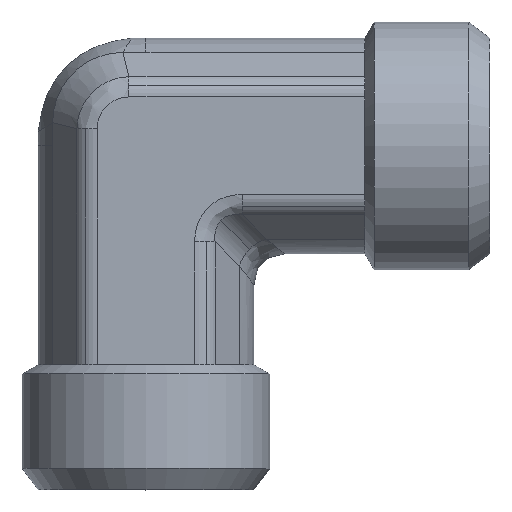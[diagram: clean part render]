
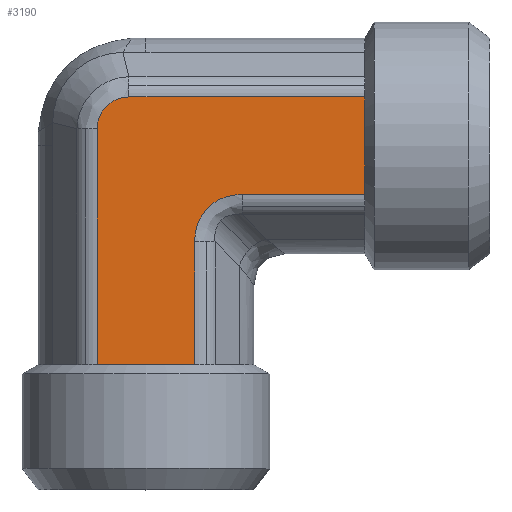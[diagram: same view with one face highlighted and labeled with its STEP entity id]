
A CAD part, top view. The second image highlights one B-rep face of the part: STEP entity #3190.
In plain terms, the highlighted planar face has unit normal (0, 0, 1) as drawn and (0, -1, 0) by its records, which use the part's own axes.
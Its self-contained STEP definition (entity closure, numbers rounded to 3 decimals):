
#361=CARTESIAN_POINT('',(1.649,-6.9,3.118));
#362=VERTEX_POINT('',#361);
#370=CARTESIAN_POINT('',(9.5,-6.9,3.118));
#371=VERTEX_POINT('',#370);
#372=CARTESIAN_POINT('',(1.649,-6.9,3.118));
#373=DIRECTION('',(1.0,0.0,0.0));
#374=VECTOR('',#373,7.851);
#375=LINE('',#372,#374);
#376=EDGE_CURVE('',#362,#371,#375,.T.);
#485=CARTESIAN_POINT('',(-7.618,-6.9,-1.091));
#486=VERTEX_POINT('',#485);
#494=CARTESIAN_POINT('',(-7.618,-6.9,14.0));
#495=VERTEX_POINT('',#494);
#496=CARTESIAN_POINT('',(-7.618,-6.9,-1.091));
#497=DIRECTION('',(0.0,0.0,1.0));
#498=VECTOR('',#497,15.091);
#499=LINE('',#496,#498);
#500=EDGE_CURVE('',#486,#495,#499,.T.);
#776=CARTESIAN_POINT('',(9.5,-6.9,0.));
#777=VERTEX_POINT('',#776);
#1961=CARTESIAN_POINT('',(-4.5,-6.9,14.0));
#1962=VERTEX_POINT('',#1961);
#2195=CARTESIAN_POINT('',(-4.5,-6.9,14.0));
#2196=DIRECTION('',(-1.0,0.0,0.0));
#2197=VECTOR('',#2196,3.118);
#2198=LINE('',#2195,#2197);
#2199=EDGE_CURVE('',#1962,#495,#2198,.T.);
#2272=CARTESIAN_POINT('',(-1.382,-6.9,14.0));
#2273=VERTEX_POINT('',#2272);
#2274=CARTESIAN_POINT('',(-1.382,-6.9,14.0));
#2275=DIRECTION('',(-1.0,0.0,0.0));
#2276=VECTOR('',#2275,3.118);
#2277=LINE('',#2274,#2276);
#2278=EDGE_CURVE('',#2273,#1962,#2277,.T.);
#2383=CARTESIAN_POINT('',(9.5,-6.9,-3.118));
#2384=VERTEX_POINT('',#2383);
#2385=CARTESIAN_POINT('',(9.5,-6.9,-3.118));
#2386=DIRECTION('',(0.0,0.0,1.0));
#2387=VECTOR('',#2386,3.118);
#2388=LINE('',#2385,#2387);
#2389=EDGE_CURVE('',#2384,#777,#2388,.T.);
#2430=CARTESIAN_POINT('',(9.5,-6.9,0.));
#2431=DIRECTION('',(0.0,0.0,1.0));
#2432=VECTOR('',#2431,3.118);
#2433=LINE('',#2430,#2432);
#2434=EDGE_CURVE('',#777,#371,#2433,.T.);
#2874=CARTESIAN_POINT('',(-5.591,-6.9,-3.118));
#2875=VERTEX_POINT('',#2874);
#2883=CARTESIAN_POINT('',(-7.618,-6.9,-1.091));
#2884=CARTESIAN_POINT('',(-7.618,-6.9,-1.223));
#2885=CARTESIAN_POINT('',(-7.605,-6.9,-1.356));
#2886=CARTESIAN_POINT('',(-7.536,-6.9,-1.695));
#2887=CARTESIAN_POINT('',(-7.462,-6.9,-1.896));
#2888=CARTESIAN_POINT('',(-7.191,-6.9,-2.378));
#2889=CARTESIAN_POINT('',(-6.949,-6.9,-2.631));
#2890=CARTESIAN_POINT('',(-6.339,-6.9,-3.011));
#2891=CARTESIAN_POINT('',(-5.965,-6.9,-3.118));
#2892=CARTESIAN_POINT('',(-5.591,-6.9,-3.118));
#2893=B_SPLINE_CURVE_WITH_KNOTS('',3,(#2883,#2884,#2885,#2886,#2887,#2888,#2889,#2890,#2891,#2892),.UNSPECIFIED.,.F.,.U.,(4,2,2,2,4),(-3.166,-2.771,-2.137,-1.124,0.0),.UNSPECIFIED.);
#2894=EDGE_CURVE('',#2875,#486,#2893,.F.);
#2921=CARTESIAN_POINT('',(9.5,-6.9,-3.118));
#2922=DIRECTION('',(-1.0,0.0,0.0));
#2923=VECTOR('',#2922,15.091);
#2924=LINE('',#2921,#2923);
#2925=EDGE_CURVE('',#2384,#2875,#2924,.T.);
#3057=CARTESIAN_POINT('',(-1.382,-6.9,6.149));
#3058=VERTEX_POINT('',#3057);
#3059=CARTESIAN_POINT('',(-1.382,-6.9,14.0));
#3060=DIRECTION('',(0.0,0.0,-1.0));
#3061=VECTOR('',#3060,7.851);
#3062=LINE('',#3059,#3061);
#3063=EDGE_CURVE('',#2273,#3058,#3062,.T.);
#3146=CARTESIAN_POINT('',(2.659,-6.9,7.159));
#3147=DIRECTION('',(0.,-1.,0.));
#3148=DIRECTION('',(-0.707,0.,-0.707));
#3149=AXIS2_PLACEMENT_3D('',#3146,#3147,#3148);
#3150=ELLIPSE('',#3149,4.518,3.5);
#3151=EDGE_CURVE('',#3058,#362,#3150,.T.);
#3173=CARTESIAN_POINT('',(-4.5,-6.9,-3.175));
#3174=DIRECTION('',(0.0,-1.0,0.0));
#3175=DIRECTION('',(0.0,0.0,-1.0));
#3176=AXIS2_PLACEMENT_3D('',#3173,#3174,#3175);
#3177=PLANE('',#3176);
#3178=ORIENTED_EDGE('',*,*,#2925,.F.);
#3179=ORIENTED_EDGE('',*,*,#2389,.T.);
#3180=ORIENTED_EDGE('',*,*,#2434,.T.);
#3181=ORIENTED_EDGE('',*,*,#376,.F.);
#3182=ORIENTED_EDGE('',*,*,#3151,.F.);
#3183=ORIENTED_EDGE('',*,*,#3063,.F.);
#3184=ORIENTED_EDGE('',*,*,#2278,.T.);
#3185=ORIENTED_EDGE('',*,*,#2199,.T.);
#3186=ORIENTED_EDGE('',*,*,#500,.F.);
#3187=ORIENTED_EDGE('',*,*,#2894,.F.);
#3188=EDGE_LOOP('',(#3178,#3179,#3180,#3181,#3182,#3183,#3184,#3185,#3186,#3187));
#3189=FACE_OUTER_BOUND('',#3188,.T.);
#3190=ADVANCED_FACE('',(#3189),#3177,.T.);
